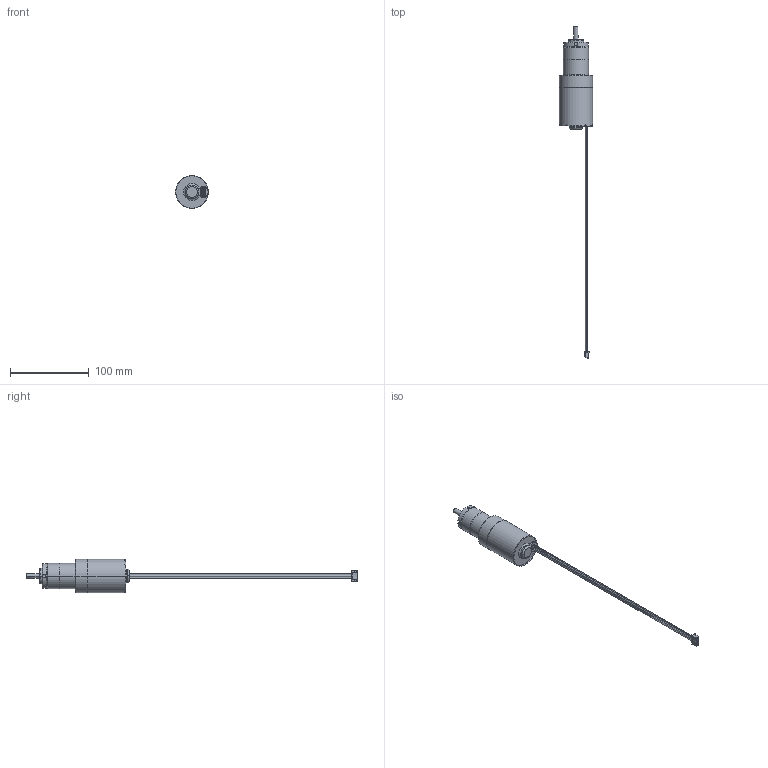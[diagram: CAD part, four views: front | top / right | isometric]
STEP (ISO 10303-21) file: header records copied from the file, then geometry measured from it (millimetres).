
FILE_DESCRIPTION((''),'2;1');
FILE_NAME('BBH_L_ASM','2024-01-16T16:15:34',('Danny.Guo'),(''),'CREO PARAMETRIC BY PTC INC, 2020414','CREO PARAMETRIC BY PTC INC, 2020414','');
FILE_SCHEMA(('CONFIG_CONTROL_DESIGN'));
Length unit declared in the file: millimetre
Products named in the file (3): BBH_L; XHP-5_1; BBH_L_ASM
Assembly tree (2 placements, depth 2):
  BBH_L_ASM
    BBH_L
    XHP-5_1
Bounding box: 42 x 421.03 x 42 mm (x, y, z)
Volume: 127972.6 mm3; surface area: 28926 mm2
Topology: 2 solids, 6 shells, 292 faces, 716 edges, 464 vertices
Faces by surface type: plane 165, cylinder 90, cone 34, torus 3
Entity records: 8698 total; most frequent: CARTESIAN_POINT 1554, DIRECTION 1526, ORIENTED_EDGE 1400, EDGE_CURVE 708, AXIS2_PLACEMENT_3D 533, VERTEX_POINT 464, VECTOR 460, LINE 460
